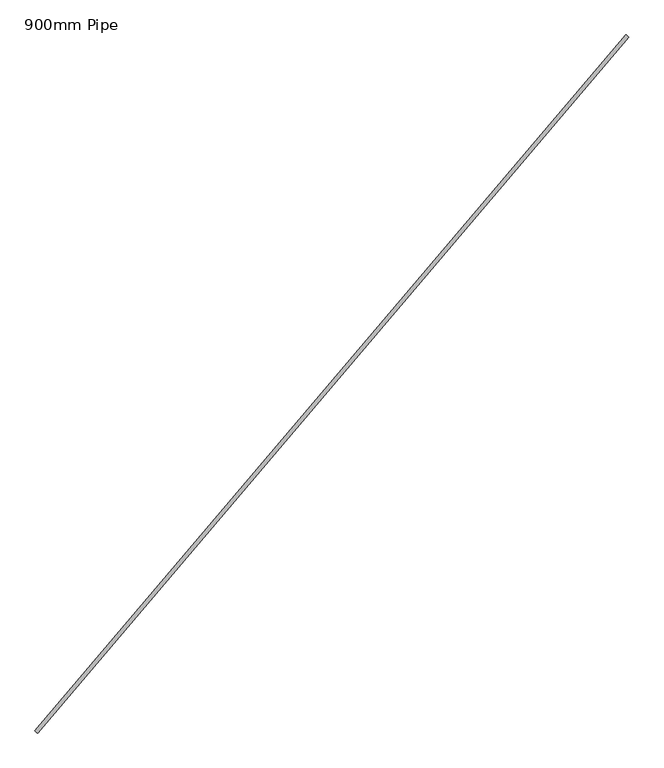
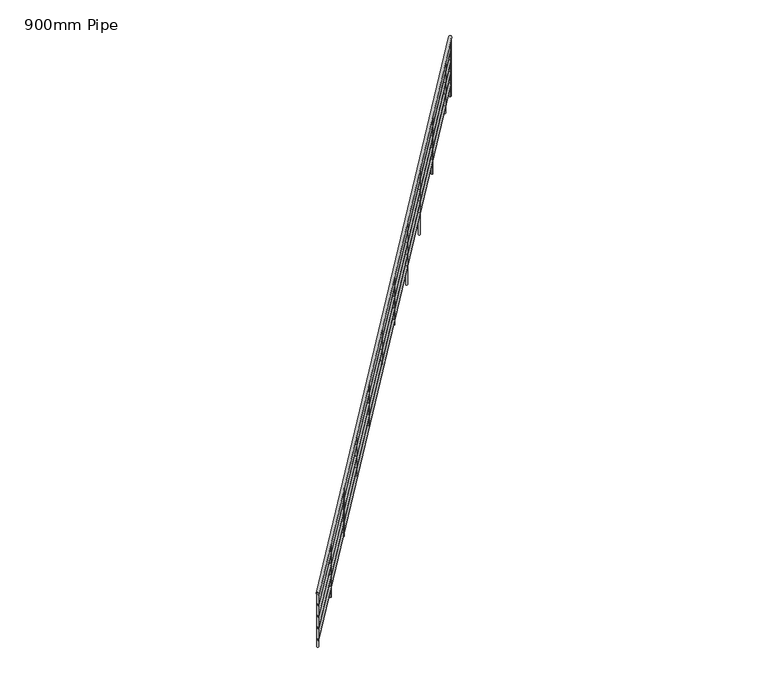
"""IFC4 building model written with IfcOpenShell, lengths in millimetres: railing geometry, 900mm Pipe."""

from ifc_helpers import new_model, si_unit, frame, origin, place, context, project, spatial, circle_curve, ellipse_curve, source, transform, mapped, element, save
from ifc_brep_helpers import plane_surface, cylinder_surface, advanced_brep


def railing_900mm_pipe_d22c0310(model_context):
    return source(origin(), model_context, "Body", "AdvancedBrep", [
        advanced_brep(
        [(923781.4960107, -27650.8089148, 6101.3054653), (923811.9835208, -27676.703156, 6101.3054653), (930536.3223733, -19697.7727274, 8526.3343786), (930566.8098834, -19723.6669686, 8526.3343786)],
        [
            (0, 1, ellipse_curve(frame((923796.7397657, -27663.7560354, 6101.3054653), z_axis=(-0.6473560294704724, -0.7621877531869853, 0.0), x_axis=(0.0, 0.0, -1.0)), 20.5330192, 20.0)),
            (1, 0, ellipse_curve(frame((923796.7397657, -27663.7560354, 6101.3054653), z_axis=(-0.6473560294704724, -0.7621877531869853, 0.0), x_axis=(0.0, 0.0, -1.0)), 20.5330192, 20.0)),
            (2, 3, ellipse_curve(frame((930551.5661284, -19710.719848, 8526.3343786), z_axis=(0.6473560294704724, 0.7621877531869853, 0.0), x_axis=(0.0, 0.0, -1.0)), 20.5330192, 20.0)),
            (3, 2, ellipse_curve(frame((930551.5661284, -19710.719848, 8526.3343786), z_axis=(0.6473560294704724, 0.7621877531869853, 0.0), x_axis=(0.0, 0.0, -1.0)), 20.5330192, 20.0)),
            (0, 2),
            (3, 1),
        ],
        [
            plane_surface(frame((923796.7397657, -27663.7560354, 6121.8384845), z_axis=(-0.6473560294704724, -0.7621877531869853, 0.0), x_axis=(0.7621877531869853, -0.6473560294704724, 0.0))),
            plane_surface(frame((930551.5661284, -19710.719848, 8546.8673978), z_axis=(0.6473560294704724, 0.7621877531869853, 0.0), x_axis=(0.7621877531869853, -0.6473560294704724, 0.0))),
            cylinder_surface(frame((923799.670634, -27660.3052729, 6102.3576671), z_axis=(-0.6305512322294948, -0.7424020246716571, -0.22637220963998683), x_axis=(0.7621877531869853, -0.6473560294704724, 0.0)), 20.0),
        ],
        [
            (0, [[1, 2]]),
            (1, [[3, 4]]),
            (2, [[-1, 5, -4, 6]]),
            (2, [[-2, -6, -3, -5]]),
        ],
    ),
        advanced_brep(
        [(923785.3069494, -27654.045695, 5906.4387201), (923808.172582, -27673.4663758, 5906.4387201), (930540.1333121, -19701.0095076, 8331.4676334), (930562.9989447, -19720.4301884, 8331.4676334)],
        [
            (0, 1, ellipse_curve(frame((923796.7397657, -27663.7560354, 5906.4387201), z_axis=(-0.6473560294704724, -0.7621877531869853, 0.0), x_axis=(0.0, 0.0, -1.0)), 15.3997644, 15.0)),
            (1, 0, ellipse_curve(frame((923796.7397657, -27663.7560354, 5906.4387201), z_axis=(-0.6473560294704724, -0.7621877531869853, 0.0), x_axis=(0.0, 0.0, -1.0)), 15.3997644, 15.0)),
            (2, 3, ellipse_curve(frame((930551.5661284, -19710.719848, 8331.4676334), z_axis=(0.6473560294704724, 0.7621877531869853, 0.0), x_axis=(0.0, 0.0, -1.0)), 15.3997644, 15.0)),
            (3, 2, ellipse_curve(frame((930551.5661284, -19710.719848, 8331.4676334), z_axis=(0.6473560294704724, 0.7621877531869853, 0.0), x_axis=(0.0, 0.0, -1.0)), 15.3997644, 15.0)),
            (0, 2),
            (3, 1),
        ],
        [
            plane_surface(frame((923796.7397657, -27663.7560354, 5921.8384845), z_axis=(-0.6473560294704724, -0.7621877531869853, 0.0), x_axis=(0.7621877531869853, -0.6473560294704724, 0.0))),
            plane_surface(frame((930551.5661284, -19710.719848, 8346.8673978), z_axis=(0.6473560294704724, 0.7621877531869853, 0.0), x_axis=(0.7621877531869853, -0.6473560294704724, 0.0))),
            cylinder_surface(frame((923798.937917, -27661.1679635, 5907.2278714), z_axis=(-0.6305512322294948, -0.7424020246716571, -0.22637220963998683), x_axis=(0.7621877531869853, -0.6473560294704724, 0.0)), 15.0),
        ],
        [
            (0, [[1, 2]]),
            (1, [[3, 4]]),
            (2, [[-1, 5, -4, 6]]),
            (2, [[-2, -6, -3, -5]]),
        ],
    ),
        advanced_brep(
        [(923785.3069494, -27654.045695, 5706.4387201), (923808.172582, -27673.4663758, 5706.4387201), (930540.1333121, -19701.0095076, 8131.4676334), (930562.9989447, -19720.4301884, 8131.4676334)],
        [
            (0, 1, ellipse_curve(frame((923796.7397657, -27663.7560354, 5706.4387201), z_axis=(-0.6473560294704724, -0.7621877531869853, 0.0), x_axis=(0.0, 0.0, -1.0)), 15.3997644, 15.0)),
            (1, 0, ellipse_curve(frame((923796.7397657, -27663.7560354, 5706.4387201), z_axis=(-0.6473560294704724, -0.7621877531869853, 0.0), x_axis=(0.0, 0.0, -1.0)), 15.3997644, 15.0)),
            (2, 3, ellipse_curve(frame((930551.5661284, -19710.719848, 8131.4676334), z_axis=(0.6473560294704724, 0.7621877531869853, 0.0), x_axis=(0.0, 0.0, -1.0)), 15.3997644, 15.0)),
            (3, 2, ellipse_curve(frame((930551.5661284, -19710.719848, 8131.4676334), z_axis=(0.6473560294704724, 0.7621877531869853, 0.0), x_axis=(0.0, 0.0, -1.0)), 15.3997644, 15.0)),
            (0, 2),
            (3, 1),
        ],
        [
            plane_surface(frame((923796.7397657, -27663.7560354, 5721.8384845), z_axis=(-0.6473560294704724, -0.7621877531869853, 0.0), x_axis=(0.7621877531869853, -0.6473560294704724, 0.0))),
            plane_surface(frame((930551.5661284, -19710.719848, 8146.8673978), z_axis=(0.6473560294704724, 0.7621877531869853, 0.0), x_axis=(0.7621877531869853, -0.6473560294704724, 0.0))),
            cylinder_surface(frame((923798.937917, -27661.1679635, 5707.2278714), z_axis=(-0.6305512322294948, -0.7424020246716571, -0.22637220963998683), x_axis=(0.7621877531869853, -0.6473560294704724, 0.0)), 15.0),
        ],
        [
            (0, [[1, 2]]),
            (1, [[3, 4]]),
            (2, [[-1, 5, -4, 6]]),
            (2, [[-2, -6, -3, -5]]),
        ],
    ),
        advanced_brep(
        [(923785.3069494, -27654.045695, 5506.4387201), (923808.172582, -27673.4663758, 5506.4387201), (930540.1333121, -19701.0095076, 7931.4676334), (930562.9989447, -19720.4301884, 7931.4676334)],
        [
            (0, 1, ellipse_curve(frame((923796.7397657, -27663.7560354, 5506.4387201), z_axis=(-0.6473560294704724, -0.7621877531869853, 0.0), x_axis=(0.0, 0.0, -1.0)), 15.3997644, 15.0)),
            (1, 0, ellipse_curve(frame((923796.7397657, -27663.7560354, 5506.4387201), z_axis=(-0.6473560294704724, -0.7621877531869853, 0.0), x_axis=(0.0, 0.0, -1.0)), 15.3997644, 15.0)),
            (2, 3, ellipse_curve(frame((930551.5661284, -19710.719848, 7931.4676334), z_axis=(0.6473560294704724, 0.7621877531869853, 0.0), x_axis=(0.0, 0.0, -1.0)), 15.3997644, 15.0)),
            (3, 2, ellipse_curve(frame((930551.5661284, -19710.719848, 7931.4676334), z_axis=(0.6473560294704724, 0.7621877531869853, 0.0), x_axis=(0.0, 0.0, -1.0)), 15.3997644, 15.0)),
            (0, 2),
            (3, 1),
        ],
        [
            plane_surface(frame((923796.7397657, -27663.7560354, 5521.8384845), z_axis=(-0.6473560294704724, -0.7621877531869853, 0.0), x_axis=(0.7621877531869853, -0.6473560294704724, 0.0))),
            plane_surface(frame((930551.5661284, -19710.719848, 7946.8673978), z_axis=(0.6473560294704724, 0.7621877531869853, 0.0), x_axis=(0.7621877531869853, -0.6473560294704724, 0.0))),
            cylinder_surface(frame((923798.937917, -27661.1679635, 5507.2278714), z_axis=(-0.6305512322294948, -0.7424020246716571, -0.22637220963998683), x_axis=(0.7621877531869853, -0.6473560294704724, 0.0)), 15.0),
        ],
        [
            (0, [[1, 2]]),
            (1, [[3, 4]]),
            (2, [[-1, 5, -4, 6]]),
            (2, [[-2, -6, -3, -5]]),
        ],
    ),
        advanced_brep(
        [(923785.3069494, -27654.045695, 5306.4387201), (923808.172582, -27673.4663758, 5306.4387201), (930540.1333121, -19701.0095076, 7731.4676334), (930562.9989447, -19720.4301884, 7731.4676334)],
        [
            (0, 1, ellipse_curve(frame((923796.7397657, -27663.7560354, 5306.4387201), z_axis=(-0.6473560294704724, -0.7621877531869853, 0.0), x_axis=(0.0, 0.0, -1.0)), 15.3997644, 15.0)),
            (1, 0, ellipse_curve(frame((923796.7397657, -27663.7560354, 5306.4387201), z_axis=(-0.6473560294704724, -0.7621877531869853, 0.0), x_axis=(0.0, 0.0, -1.0)), 15.3997644, 15.0)),
            (2, 3, ellipse_curve(frame((930551.5661284, -19710.719848, 7731.4676334), z_axis=(0.6473560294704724, 0.7621877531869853, 0.0), x_axis=(0.0, 0.0, -1.0)), 15.3997644, 15.0)),
            (3, 2, ellipse_curve(frame((930551.5661284, -19710.719848, 7731.4676334), z_axis=(0.6473560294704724, 0.7621877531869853, 0.0), x_axis=(0.0, 0.0, -1.0)), 15.3997644, 15.0)),
            (0, 2),
            (3, 1),
        ],
        [
            plane_surface(frame((923796.7397657, -27663.7560354, 5321.8384845), z_axis=(-0.6473560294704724, -0.7621877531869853, 0.0), x_axis=(0.7621877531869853, -0.6473560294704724, 0.0))),
            plane_surface(frame((930551.5661284, -19710.719848, 7746.8673978), z_axis=(0.6473560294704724, 0.7621877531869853, 0.0), x_axis=(0.7621877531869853, -0.6473560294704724, 0.0))),
            cylinder_surface(frame((923798.937917, -27661.1679635, 5307.2278714), z_axis=(-0.6305512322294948, -0.7424020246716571, -0.22637220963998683), x_axis=(0.7621877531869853, -0.6473560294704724, 0.0)), 15.0),
        ],
        [
            (0, [[1, 2]]),
            (1, [[3, 4]]),
            (2, [[-1, 5, -4, 6]]),
            (2, [[-2, -6, -3, -5]]),
        ],
    ),
        advanced_brep(
        [(930279.8274073, -20049.9704539, 8404.8249151), (930279.8274073, -20049.9704539, 7510.1176471), (930260.7727135, -20033.7865532, 7510.1176471), (930260.7727135, -20033.7865532, 8404.8249151)],
        [
            (0, 1),
            (1, 2, circle_curve(frame((930270.3000604, -20041.8785035, 7510.1176471), z_axis=(0.0, 0.0, 1.0), x_axis=(-0.7621877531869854, 0.6473560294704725, 0.0)), 12.5)),
            (2, 3),
            (3, 0, ellipse_curve(frame((930270.3000604, -20041.8785035, 8404.8249151), z_axis=(0.1465434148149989, 0.17253812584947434, -0.9740408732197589), x_axis=(0.630551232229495, 0.7424020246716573, 0.22637220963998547)), 12.833137, 12.5)),
            (0, 3, ellipse_curve(frame((930270.3000604, -20041.8785035, 8404.8249151), z_axis=(0.1465434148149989, 0.17253812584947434, -0.9740408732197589), x_axis=(0.630551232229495, 0.7424020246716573, 0.22637220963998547)), 12.833137, 12.5)),
            (2, 1, circle_curve(frame((930270.3000604, -20041.8785035, 7510.1176471), z_axis=(0.0, 0.0, 1.0), x_axis=(-0.7621877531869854, 0.6473560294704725, 0.0)), 12.5)),
        ],
        [
            cylinder_surface(frame((930270.3000604, -20041.8785035, 7410.1176471), z_axis=(0.0, 0.0, 1.0), x_axis=(-0.7621877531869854, 0.6473560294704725, 0.0)), 12.5),
            plane_surface(frame((930267.4292673, -20006.639909, 8410.6350463), z_axis=(-0.1465434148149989, -0.17253812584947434, 0.9740408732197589), x_axis=(0.7621877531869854, -0.6473560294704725, 0.0))),
            plane_surface(frame((930235.0614659, -20044.7492966, 7510.1176471), z_axis=(0.0, 0.0, -1.0), x_axis=(0.7621877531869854, -0.6473560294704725, 0.0))),
        ],
        [
            (0, [[1, 2, 3, 4]]),
            (0, [[-1, 5, -3, 6]]),
            (1, [[-4, -5]]),
            (2, [[-2, -6]]),
        ],
    ),
        advanced_brep(
        [(929632.4713779, -20812.1582071, 8172.4196682), (929632.4713779, -20812.1582071, 7151.5294118), (929613.416684, -20795.9743064, 7151.5294118), (929613.416684, -20795.9743064, 8172.4196682)],
        [
            (0, 1),
            (1, 2, circle_curve(frame((929622.944031, -20804.0662567, 7151.5294118), z_axis=(0.0, 0.0, 1.0), x_axis=(-0.7621877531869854, 0.6473560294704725, 0.0)), 12.5)),
            (2, 3),
            (3, 0, ellipse_curve(frame((929622.944031, -20804.0662567, 8172.4196682), z_axis=(0.1465434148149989, 0.17253812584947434, -0.9740408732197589), x_axis=(0.630551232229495, 0.7424020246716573, 0.22637220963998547)), 12.833137, 12.5)),
            (0, 3, ellipse_curve(frame((929622.944031, -20804.0662567, 8172.4196682), z_axis=(0.1465434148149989, 0.17253812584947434, -0.9740408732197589), x_axis=(0.630551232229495, 0.7424020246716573, 0.22637220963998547)), 12.833137, 12.5)),
            (2, 1, circle_curve(frame((929622.944031, -20804.0662567, 7151.5294118), z_axis=(0.0, 0.0, 1.0), x_axis=(-0.7621877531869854, 0.6473560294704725, 0.0)), 12.5)),
        ],
        [
            cylinder_surface(frame((929622.944031, -20804.0662567, 7051.5294118), z_axis=(0.0, 0.0, 1.0), x_axis=(-0.7621877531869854, 0.6473560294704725, 0.0)), 12.5),
            plane_surface(frame((929620.0732379, -20768.8276622, 8178.2297994), z_axis=(-0.1465434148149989, -0.17253812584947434, 0.9740408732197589), x_axis=(0.7621877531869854, -0.6473560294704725, 0.0))),
            plane_surface(frame((929587.7054364, -20806.9370498, 7151.5294118), z_axis=(0.0, 0.0, -1.0), x_axis=(0.7621877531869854, -0.6473560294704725, 0.0))),
        ],
        [
            (0, [[1, 2, 3, 4]]),
            (0, [[-1, 5, -3, 6]]),
            (1, [[-4, -5]]),
            (2, [[-2, -6]]),
        ],
    ),
        advanced_brep(
        [(928985.1153484, -21574.3459603, 7940.0144213), (928985.1153484, -21574.3459603, 6792.9411765), (928966.0606546, -21558.1620595, 6792.9411765), (928966.0606546, -21558.1620595, 7940.0144213)],
        [
            (0, 1),
            (1, 2, circle_curve(frame((928975.5880015, -21566.2540099, 6792.9411765), z_axis=(0.0, 0.0, 1.0), x_axis=(-0.7621877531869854, 0.6473560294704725, 0.0)), 12.5)),
            (2, 3),
            (3, 0, ellipse_curve(frame((928975.5880015, -21566.2540099, 7940.0144213), z_axis=(0.1465434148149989, 0.17253812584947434, -0.9740408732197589), x_axis=(0.630551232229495, 0.7424020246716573, 0.22637220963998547)), 12.833137, 12.5)),
            (0, 3, ellipse_curve(frame((928975.5880015, -21566.2540099, 7940.0144213), z_axis=(0.1465434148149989, 0.17253812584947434, -0.9740408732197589), x_axis=(0.630551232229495, 0.7424020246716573, 0.22637220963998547)), 12.833137, 12.5)),
            (2, 1, circle_curve(frame((928975.5880015, -21566.2540099, 6792.9411765), z_axis=(0.0, 0.0, 1.0), x_axis=(-0.7621877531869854, 0.6473560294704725, 0.0)), 12.5)),
        ],
        [
            cylinder_surface(frame((928975.5880015, -21566.2540099, 6692.9411765), z_axis=(0.0, 0.0, 1.0), x_axis=(-0.7621877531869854, 0.6473560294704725, 0.0)), 12.5),
            plane_surface(frame((928972.7172084, -21531.0154153, 7945.8245525), z_axis=(-0.1465434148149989, -0.17253812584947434, 0.9740408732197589), x_axis=(0.7621877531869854, -0.6473560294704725, 0.0))),
            plane_surface(frame((928940.3494069, -21569.124803, 6792.9411765), z_axis=(0.0, 0.0, -1.0), x_axis=(0.7621877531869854, -0.6473560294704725, 0.0))),
        ],
        [
            (0, [[1, 2, 3, 4]]),
            (0, [[-1, 5, -3, 6]]),
            (1, [[-4, -5]]),
            (2, [[-2, -6]]),
        ],
    ),
        advanced_brep(
        [(928337.7593189, -22336.5337135, 7707.6091744), (928337.7593189, -22336.5337135, 6613.6470588), (928318.7046251, -22320.3498127, 6613.6470588), (928318.7046251, -22320.3498127, 7707.6091744)],
        [
            (0, 1),
            (1, 2, circle_curve(frame((928328.231972, -22328.4417631, 6613.6470588), z_axis=(0.0, 0.0, 1.0), x_axis=(-0.7621877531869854, 0.6473560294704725, 0.0)), 12.5)),
            (2, 3),
            (3, 0, ellipse_curve(frame((928328.231972, -22328.4417631, 7707.6091744), z_axis=(0.1465434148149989, 0.17253812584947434, -0.9740408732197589), x_axis=(0.630551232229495, 0.7424020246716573, 0.22637220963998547)), 12.833137, 12.5)),
            (0, 3, ellipse_curve(frame((928328.231972, -22328.4417631, 7707.6091744), z_axis=(0.1465434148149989, 0.17253812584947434, -0.9740408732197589), x_axis=(0.630551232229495, 0.7424020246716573, 0.22637220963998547)), 12.833137, 12.5)),
            (2, 1, circle_curve(frame((928328.231972, -22328.4417631, 6613.6470588), z_axis=(0.0, 0.0, 1.0), x_axis=(-0.7621877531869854, 0.6473560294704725, 0.0)), 12.5)),
        ],
        [
            cylinder_surface(frame((928328.231972, -22328.4417631, 6513.6470588), z_axis=(0.0, 0.0, 1.0), x_axis=(-0.7621877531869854, 0.6473560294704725, 0.0)), 12.5),
            plane_surface(frame((928325.3611789, -22293.2031685, 7713.4193056), z_axis=(-0.1465434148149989, -0.17253812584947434, 0.9740408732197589), x_axis=(0.7621877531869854, -0.6473560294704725, 0.0))),
            plane_surface(frame((928292.9933775, -22331.3125562, 6613.6470588), z_axis=(0.0, 0.0, -1.0), x_axis=(0.7621877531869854, -0.6473560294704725, 0.0))),
        ],
        [
            (0, [[1, 2, 3, 4]]),
            (0, [[-1, 5, -3, 6]]),
            (1, [[-4, -5]]),
            (2, [[-2, -6]]),
        ],
    ),
        advanced_brep(
        [(927690.4032895, -23098.7214667, 7475.2039275), (927690.4032895, -23098.7214667, 6613.6470588), (927671.3485956, -23082.5375659, 6613.6470588), (927671.3485956, -23082.5375659, 7475.2039275)],
        [
            (0, 1),
            (1, 2, circle_curve(frame((927680.8759426, -23090.6295163, 6613.6470588), z_axis=(0.0, 0.0, 1.0), x_axis=(-0.7621877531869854, 0.6473560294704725, 0.0)), 12.5)),
            (2, 3),
            (3, 0, ellipse_curve(frame((927680.8759426, -23090.6295163, 7475.2039275), z_axis=(0.1465434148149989, 0.17253812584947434, -0.9740408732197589), x_axis=(0.630551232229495, 0.7424020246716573, 0.22637220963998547)), 12.833137, 12.5)),
            (0, 3, ellipse_curve(frame((927680.8759426, -23090.6295163, 7475.2039275), z_axis=(0.1465434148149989, 0.17253812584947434, -0.9740408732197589), x_axis=(0.630551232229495, 0.7424020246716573, 0.22637220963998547)), 12.833137, 12.5)),
            (2, 1, circle_curve(frame((927680.8759426, -23090.6295163, 6613.6470588), z_axis=(0.0, 0.0, 1.0), x_axis=(-0.7621877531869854, 0.6473560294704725, 0.0)), 12.5)),
        ],
        [
            cylinder_surface(frame((927680.8759426, -23090.6295163, 6513.6470588), z_axis=(0.0, 0.0, 1.0), x_axis=(-0.7621877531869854, 0.6473560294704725, 0.0)), 12.5),
            plane_surface(frame((927678.0051495, -23055.3909217, 7481.0140587), z_axis=(-0.1465434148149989, -0.17253812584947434, 0.9740408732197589), x_axis=(0.7621877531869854, -0.6473560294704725, 0.0))),
            plane_surface(frame((927645.637348, -23093.5003094, 6613.6470588), z_axis=(0.0, 0.0, -1.0), x_axis=(0.7621877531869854, -0.6473560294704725, 0.0))),
        ],
        [
            (0, [[1, 2, 3, 4]]),
            (0, [[-1, 5, -3, 6]]),
            (1, [[-4, -5]]),
            (2, [[-2, -6]]),
        ],
    ),
        advanced_brep(
        [(927043.04726, -23860.9092198, 7242.7986806), (927043.04726, -23860.9092198, 6613.6470588), (927023.9925662, -23844.7253191, 6613.6470588), (927023.9925662, -23844.7253191, 7242.7986806)],
        [
            (0, 1),
            (1, 2, circle_curve(frame((927033.5199131, -23852.8172695, 6613.6470588), z_axis=(0.0, 0.0, 1.0), x_axis=(-0.7621877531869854, 0.6473560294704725, 0.0)), 12.5)),
            (2, 3),
            (3, 0, ellipse_curve(frame((927033.5199131, -23852.8172695, 7242.7986806), z_axis=(0.1465434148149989, 0.17253812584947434, -0.9740408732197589), x_axis=(0.630551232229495, 0.7424020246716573, 0.22637220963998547)), 12.833137, 12.5)),
            (0, 3, ellipse_curve(frame((927033.5199131, -23852.8172695, 7242.7986806), z_axis=(0.1465434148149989, 0.17253812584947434, -0.9740408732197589), x_axis=(0.630551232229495, 0.7424020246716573, 0.22637220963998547)), 12.833137, 12.5)),
            (2, 1, circle_curve(frame((927033.5199131, -23852.8172695, 6613.6470588), z_axis=(0.0, 0.0, 1.0), x_axis=(-0.7621877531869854, 0.6473560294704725, 0.0)), 12.5)),
        ],
        [
            cylinder_surface(frame((927033.5199131, -23852.8172695, 6513.6470588), z_axis=(0.0, 0.0, 1.0), x_axis=(-0.7621877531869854, 0.6473560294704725, 0.0)), 12.5),
            plane_surface(frame((927030.64912, -23817.5786749, 7248.6088118), z_axis=(-0.1465434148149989, -0.17253812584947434, 0.9740408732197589), x_axis=(0.7621877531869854, -0.6473560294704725, 0.0))),
            plane_surface(frame((926998.2813185, -23855.6880626, 6613.6470588), z_axis=(0.0, 0.0, -1.0), x_axis=(0.7621877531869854, -0.6473560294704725, 0.0))),
        ],
        [
            (0, [[1, 2, 3, 4]]),
            (0, [[-1, 5, -3, 6]]),
            (1, [[-4, -5]]),
            (2, [[-2, -6]]),
        ],
    ),
        advanced_brep(
        [(926395.6912305, -24623.096973, 7010.3934322), (926395.6912305, -24623.096973, 6255.0588235), (926376.6365367, -24606.9130723, 6255.0588235), (926376.6365367, -24606.9130723, 7010.3934322)],
        [
            (0, 1),
            (1, 2, circle_curve(frame((926386.1638836, -24615.0050227, 6255.0588235), z_axis=(0.0, 0.0, 1.0), x_axis=(-0.7621877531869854, 0.6473560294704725, 0.0)), 12.5)),
            (2, 3),
            (3, 0, ellipse_curve(frame((926386.1638836, -24615.0050227, 7010.3934322), z_axis=(0.1465434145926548, 0.17253812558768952, -0.9740408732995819), x_axis=(0.6305512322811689, 0.7424020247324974, 0.22637220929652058)), 12.833137, 12.5)),
            (0, 3, ellipse_curve(frame((926386.1638836, -24615.0050227, 7010.3934322), z_axis=(0.1465434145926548, 0.17253812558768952, -0.9740408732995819), x_axis=(0.6305512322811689, 0.7424020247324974, 0.22637220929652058)), 12.833137, 12.5)),
            (2, 1, circle_curve(frame((926386.1638836, -24615.0050227, 6255.0588235), z_axis=(0.0, 0.0, 1.0), x_axis=(-0.7621877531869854, 0.6473560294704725, 0.0)), 12.5)),
        ],
        [
            cylinder_surface(frame((926386.1638836, -24615.0050227, 6155.0588235), z_axis=(0.0, 0.0, 1.0), x_axis=(-0.7621877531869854, 0.6473560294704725, 0.0)), 12.5),
            plane_surface(frame((926383.2930905, -24579.7664281, 7016.2035634), z_axis=(-0.1465434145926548, -0.17253812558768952, 0.9740408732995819), x_axis=(0.7621877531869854, -0.6473560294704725, 0.0))),
            plane_surface(frame((926350.925289, -24617.8758158, 6255.0588235), z_axis=(0.0, 0.0, -1.0), x_axis=(0.7621877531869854, -0.6473560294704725, 0.0))),
        ],
        [
            (0, [[1, 2, 3, 4]]),
            (0, [[-1, 5, -3, 6]]),
            (1, [[-4, -5]]),
            (2, [[-2, -6]]),
        ],
    ),
        advanced_brep(
        [(925748.3352011, -25385.2847262, 6777.9881857), (925748.3352011, -25385.2847262, 6075.7647059), (925729.2805072, -25369.1008255, 6075.7647059), (925729.2805072, -25369.1008255, 6777.9881857)],
        [
            (0, 1),
            (1, 2, circle_curve(frame((925738.8078541, -25377.1927758, 6075.7647059), z_axis=(0.0, 0.0, 1.0), x_axis=(-0.7621877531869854, 0.6473560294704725, 0.0)), 12.5)),
            (2, 3),
            (3, 0, ellipse_curve(frame((925738.8078541, -25377.1927758, 6777.9881857), z_axis=(0.1465434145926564, 0.17253812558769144, -0.9740408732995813), x_axis=(0.6305512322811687, 0.7424020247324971, 0.22637220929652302)), 12.833137, 12.5)),
            (0, 3, ellipse_curve(frame((925738.8078541, -25377.1927758, 6777.9881857), z_axis=(0.1465434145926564, 0.17253812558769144, -0.9740408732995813), x_axis=(0.6305512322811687, 0.7424020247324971, 0.22637220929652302)), 12.833137, 12.5)),
            (2, 1, circle_curve(frame((925738.8078541, -25377.1927758, 6075.7647059), z_axis=(0.0, 0.0, 1.0), x_axis=(-0.7621877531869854, 0.6473560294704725, 0.0)), 12.5)),
        ],
        [
            cylinder_surface(frame((925738.8078541, -25377.1927758, 5975.7647059), z_axis=(0.0, 0.0, 1.0), x_axis=(-0.7621877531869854, 0.6473560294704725, 0.0)), 12.5),
            plane_surface(frame((925735.937061, -25341.9541813, 6783.7983168), z_axis=(-0.1465434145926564, -0.17253812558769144, 0.9740408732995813), x_axis=(0.7621877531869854, -0.6473560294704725, 0.0))),
            plane_surface(frame((925703.5692596, -25380.0635689, 6075.7647059), z_axis=(0.0, 0.0, -1.0), x_axis=(0.7621877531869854, -0.6473560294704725, 0.0))),
        ],
        [
            (0, [[1, 2, 3, 4]]),
            (0, [[-1, 5, -3, 6]]),
            (1, [[-4, -5]]),
            (2, [[-2, -6]]),
        ],
    ),
        advanced_brep(
        [(925100.9791716, -26147.4724794, 6545.5829391), (925100.9791716, -26147.4724794, 5717.1764706), (925081.9244778, -26131.2885787, 5717.1764706), (925081.9244778, -26131.2885787, 6545.5829391)],
        [
            (0, 1),
            (1, 2, circle_curve(frame((925091.4518247, -26139.380529, 5717.1764706), z_axis=(0.0, 0.0, 1.0), x_axis=(-0.7621877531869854, 0.6473560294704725, 0.0)), 12.5)),
            (2, 3),
            (3, 0, ellipse_curve(frame((925091.4518247, -26139.380529, 6545.5829391), z_axis=(0.1465434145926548, 0.17253812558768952, -0.9740408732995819), x_axis=(0.6305512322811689, 0.7424020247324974, 0.22637220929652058)), 12.833137, 12.5)),
            (0, 3, ellipse_curve(frame((925091.4518247, -26139.380529, 6545.5829391), z_axis=(0.1465434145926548, 0.17253812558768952, -0.9740408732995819), x_axis=(0.6305512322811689, 0.7424020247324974, 0.22637220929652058)), 12.833137, 12.5)),
            (2, 1, circle_curve(frame((925091.4518247, -26139.380529, 5717.1764706), z_axis=(0.0, 0.0, 1.0), x_axis=(-0.7621877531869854, 0.6473560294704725, 0.0)), 12.5)),
        ],
        [
            cylinder_surface(frame((925091.4518247, -26139.380529, 5617.1764706), z_axis=(0.0, 0.0, 1.0), x_axis=(-0.7621877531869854, 0.6473560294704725, 0.0)), 12.5),
            plane_surface(frame((925088.5810316, -26104.1419345, 6551.3930703), z_axis=(-0.1465434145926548, -0.17253812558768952, 0.9740408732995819), x_axis=(0.7621877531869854, -0.6473560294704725, 0.0))),
            plane_surface(frame((925056.2132301, -26142.2513221, 5717.1764706), z_axis=(0.0, 0.0, -1.0), x_axis=(0.7621877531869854, -0.6473560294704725, 0.0))),
        ],
        [
            (0, [[1, 2, 3, 4]]),
            (0, [[-1, 5, -3, 6]]),
            (1, [[-4, -5]]),
            (2, [[-2, -6]]),
        ],
    ),
        advanced_brep(
        [(924453.6231421, -26909.6602326, 6313.1776926), (924453.6231421, -26909.6602326, 5358.5882353), (924434.5684483, -26893.4763319, 5358.5882353), (924434.5684483, -26893.4763319, 6313.1776926)],
        [
            (0, 1),
            (1, 2, circle_curve(frame((924444.0957952, -26901.5682822, 5358.5882353), z_axis=(0.0, 0.0, 1.0), x_axis=(-0.7621877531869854, 0.6473560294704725, 0.0)), 12.5)),
            (2, 3),
            (3, 0, ellipse_curve(frame((924444.0957952, -26901.5682822, 6313.1776926), z_axis=(0.1465434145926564, 0.17253812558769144, -0.9740408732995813), x_axis=(0.6305512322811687, 0.7424020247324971, 0.22637220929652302)), 12.833137, 12.5)),
            (0, 3, ellipse_curve(frame((924444.0957952, -26901.5682822, 6313.1776926), z_axis=(0.1465434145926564, 0.17253812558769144, -0.9740408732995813), x_axis=(0.6305512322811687, 0.7424020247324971, 0.22637220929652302)), 12.833137, 12.5)),
            (2, 1, circle_curve(frame((924444.0957952, -26901.5682822, 5358.5882353), z_axis=(0.0, 0.0, 1.0), x_axis=(-0.7621877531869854, 0.6473560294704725, 0.0)), 12.5)),
        ],
        [
            cylinder_surface(frame((924444.0957952, -26901.5682822, 5258.5882353), z_axis=(0.0, 0.0, 1.0), x_axis=(-0.7621877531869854, 0.6473560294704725, 0.0)), 12.5),
            plane_surface(frame((924441.2250021, -26866.3296877, 6318.9878238), z_axis=(-0.1465434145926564, -0.17253812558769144, 0.9740408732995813), x_axis=(0.7621877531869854, -0.6473560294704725, 0.0))),
            plane_surface(frame((924408.8572006, -26904.4390753, 5358.5882353), z_axis=(0.0, 0.0, -1.0), x_axis=(0.7621877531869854, -0.6473560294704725, 0.0))),
        ],
        [
            (0, [[1, 2, 3, 4]]),
            (0, [[-1, 5, -3, 6]]),
            (1, [[-4, -5]]),
            (2, [[-2, -6]]),
        ],
    ),
        advanced_brep(
        [(930553.0015249, -19728.3391453, 8502.8962937), (930553.0015249, -19728.3391453, 7510.1176471), (930533.9468311, -19712.1552445, 7510.1176471), (930533.9468311, -19712.1552445, 8502.8962937)],
        [
            (0, 1),
            (1, 2, circle_curve(frame((930543.474178, -19720.2471949, 7510.1176471), z_axis=(0.0, 0.0, 1.0), x_axis=(-0.7621877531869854, 0.6473560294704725, 0.0)), 12.5)),
            (2, 3),
            (3, 0, ellipse_curve(frame((930543.474178, -19720.2471949, 8502.8962937), z_axis=(0.1465434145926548, 0.17253812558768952, -0.9740408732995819), x_axis=(0.6305512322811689, 0.7424020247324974, 0.22637220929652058)), 12.833137, 12.5)),
            (0, 3, ellipse_curve(frame((930543.474178, -19720.2471949, 8502.8962937), z_axis=(0.1465434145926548, 0.17253812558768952, -0.9740408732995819), x_axis=(0.6305512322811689, 0.7424020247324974, 0.22637220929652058)), 12.833137, 12.5)),
            (2, 1, circle_curve(frame((930543.474178, -19720.2471949, 7510.1176471), z_axis=(0.0, 0.0, 1.0), x_axis=(-0.7621877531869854, 0.6473560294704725, 0.0)), 12.5)),
        ],
        [
            cylinder_surface(frame((930543.474178, -19720.2471949, 7410.1176471), z_axis=(0.0, 0.0, 1.0), x_axis=(-0.7621877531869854, 0.6473560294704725, 0.0)), 12.5),
            plane_surface(frame((930540.6033849, -19685.0086003, 8508.7064249), z_axis=(-0.1465434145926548, -0.17253812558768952, 0.9740408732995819), x_axis=(0.7621877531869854, -0.6473560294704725, 0.0))),
            plane_surface(frame((930508.2355834, -19723.117988, 7510.1176471), z_axis=(0.0, 0.0, -1.0), x_axis=(0.7621877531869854, -0.6473560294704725, 0.0))),
        ],
        [
            (0, [[1, 2, 3, 4]]),
            (0, [[-1, 5, -3, 6]]),
            (1, [[-4, -5]]),
            (2, [[-2, -6]]),
        ],
    ),
        advanced_brep(
        [(923814.359063, -27662.3206389, 6083.6775116), (923814.359063, -27662.3206389, 5179.2941176), (923795.3043692, -27646.1367381, 5179.2941176), (923795.3043692, -27646.1367381, 6083.6775116)],
        [
            (0, 1),
            (1, 2, circle_curve(frame((923804.8317161, -27654.2286885, 5179.2941176), z_axis=(0.0, 0.0, 1.0), x_axis=(-0.7621877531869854, 0.6473560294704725, 0.0)), 12.5)),
            (2, 3),
            (3, 0, ellipse_curve(frame((923804.8317161, -27654.2286885, 6083.6775116), z_axis=(0.1465434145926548, 0.17253812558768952, -0.9740408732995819), x_axis=(0.6305512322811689, 0.7424020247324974, 0.22637220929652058)), 12.833137, 12.5)),
            (0, 3, ellipse_curve(frame((923804.8317161, -27654.2286885, 6083.6775116), z_axis=(0.1465434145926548, 0.17253812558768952, -0.9740408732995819), x_axis=(0.6305512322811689, 0.7424020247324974, 0.22637220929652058)), 12.833137, 12.5)),
            (2, 1, circle_curve(frame((923804.8317161, -27654.2286885, 5179.2941176), z_axis=(0.0, 0.0, 1.0), x_axis=(-0.7621877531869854, 0.6473560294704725, 0.0)), 12.5)),
        ],
        [
            cylinder_surface(frame((923804.8317161, -27654.2286885, 5079.2941176), z_axis=(0.0, 0.0, 1.0), x_axis=(-0.7621877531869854, 0.6473560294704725, 0.0)), 12.5),
            plane_surface(frame((923801.960923, -27618.9900939, 6089.4876428), z_axis=(-0.1465434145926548, -0.17253812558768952, 0.9740408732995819), x_axis=(0.7621877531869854, -0.6473560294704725, 0.0))),
            plane_surface(frame((923769.5931215, -27657.0994816, 5179.2941176), z_axis=(0.0, 0.0, -1.0), x_axis=(0.7621877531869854, -0.6473560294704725, 0.0))),
        ],
        [
            (0, [[1, 2, 3, 4]]),
            (0, [[-1, 5, -3, 6]]),
            (1, [[-4, -5]]),
            (2, [[-2, -6]]),
        ],
    ),
    ])


if __name__ == "__main__":
    model = new_model("IFC4")
    model_context = context("Model", 3, world=origin())
    ifc_project = project(units=[si_unit("LENGTHUNIT", "METRE", prefix="MILLI")], contexts=[model_context])
    site = spatial("IfcSite", under=ifc_project)
    building = spatial("IfcBuilding", under=site)
    placement = place(None, origin())
    railing_900mm_pipe_shape = railing_900mm_pipe_d22c0310(model_context)
    element("IfcRailing", 1, ObjectType="900mm Pipe", at=placement, inside=building, context=model_context, shape_type="MappedRepresentation", body=[
        mapped(railing_900mm_pipe_shape, transform((0.0, 0.0, 0.0), x_axis=(1.0, 0.0, 0.0), y_axis=(0.0, 1.0, 0.0), z_axis=(0.0, 0.0, 1.0))),
    ])
    save(model, "model.ifc")
